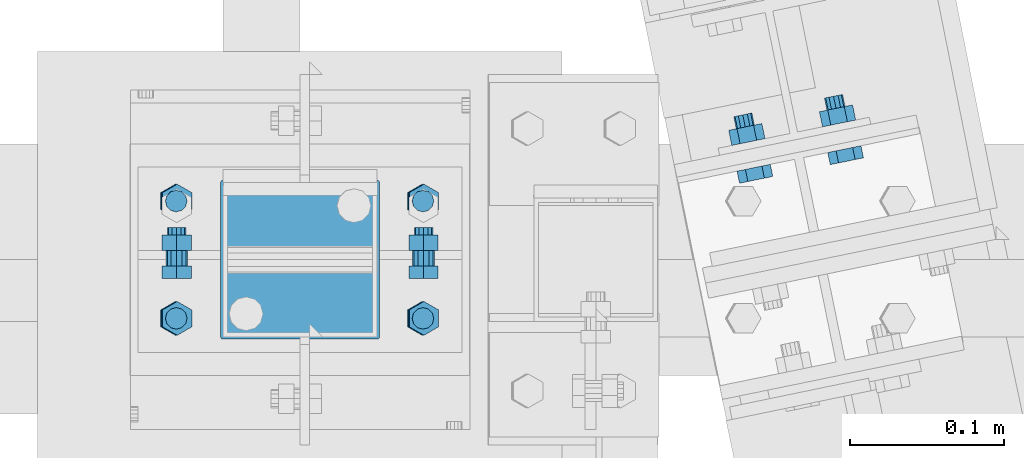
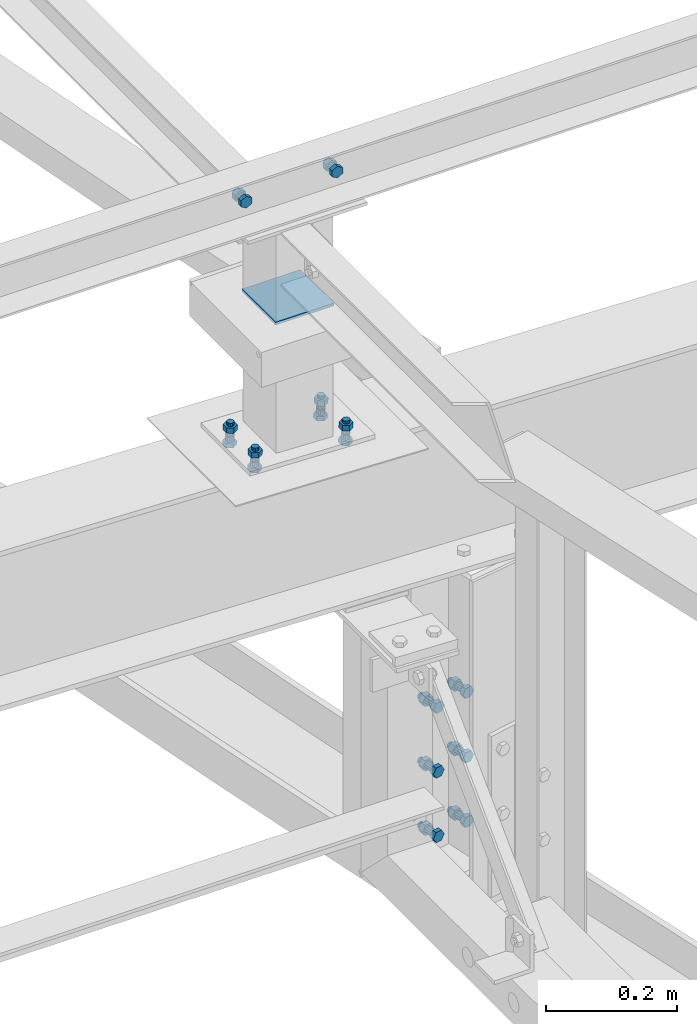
# One storey, part 66 of 3134: 5 mechanical fasteners, 4 elements without a shape of their own.
"""IFC2X3 building model written with IfcOpenShell, lengths in millimetres."""

from ifc_helpers import new_model, si_unit, frame, origin_with_axes, place, context, subcontext, project, spatial, faceted_brep, source, transform, mapped, material, type_object, element, aggregate, save


model = new_model("IFC2X3")

# Units and contexts
model_context = context("Model", 3, precision=1e-05, world=origin_with_axes())
body_context = subcontext(model_context, "Body", "Model", "MODEL_VIEW")
ifc_project = project(units=[si_unit("LENGTHUNIT", "METRE", prefix="MILLI"), si_unit("AREAUNIT", "SQUARE_METRE"), si_unit("VOLUMEUNIT", "CUBIC_METRE"), si_unit("MASSUNIT", "GRAM", prefix="KILO"), si_unit("TIMEUNIT", "SECOND"), si_unit("PLANEANGLEUNIT", "RADIAN"), si_unit("SOLIDANGLEUNIT", "STERADIAN"), si_unit("THERMODYNAMICTEMPERATUREUNIT", "DEGREE_CELSIUS"), si_unit("LUMINOUSINTENSITYUNIT", "LUMEN")], contexts=[model_context])

# Site, building, storey
site_placement = place(None, origin_with_axes())
site = spatial("IfcSite", under=ifc_project, at=site_placement, CompositionType="ELEMENT")
building_placement = place(site_placement, origin_with_axes())
building = spatial("IfcBuilding", under=site, at=building_placement, Name="Undefined", CompositionType="ELEMENT")
storey_placement = place(building_placement, origin_with_axes())
storey = spatial("IfcBuildingStorey", under=building, at=storey_placement, Name="Undefined", CompositionType="ELEMENT", Elevation=0.0)

# Assembly, mechanical fastener
assembly_1_placement = place(storey_placement, origin_with_axes())
assembly_1 = element("IfcElementAssembly", 1, at=assembly_1_placement, inside=storey, Name="HEA160", AssemblyPlace="NOTDEFINED", PredefinedType="RIGID_FRAME")
ifc_material_1 = material(Name="8.8")
mechanical_fastener_type = type_object("IfcMechanicalFastenerType", Name="Bolt assembly")
shared_shape_1 = source(origin_with_axes(), body_context, "Body", "Brep", [
    faceted_brep([(10.9696551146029, -17.0000000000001, 0.0), (5.48482755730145, -17.0000000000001, 9.5), (-5.48482755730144, -17.0000000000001, 9.5), (-10.9696551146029, -17.0000000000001, 1.34339530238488e-15), (-5.48482755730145, -17.0000000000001, -9.5), (5.48482755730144, -17.0000000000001, -9.50000000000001), (5.48482755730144, -9.00000000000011, -9.50000000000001), (-5.48482755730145, -9.00000000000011, -9.5), (-10.9696551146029, -9.00000000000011, 1.34339530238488e-15), (-5.48482755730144, -9.00000000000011, 9.5), (5.48482755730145, -9.00000000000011, 9.5), (10.9696551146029, -9.00000000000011, 0.0), (6.0, -9.00000000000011, 0.0), (5.19615242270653, -9.00000000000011, 3.00000000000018), (2.99999999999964, -9.00000000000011, 5.19615242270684), (-6.21801588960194e-13, -9.00000000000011, 6.0), (-3.00000000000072, -9.00000000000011, 5.19615242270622), (-5.19615242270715, -9.00000000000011, 2.9999999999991), (-6.0, -9.00000000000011, -1.24360317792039e-12), (-5.19615242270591, -9.00000000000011, -3.00000000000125), (-2.99999999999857, -9.00000000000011, -5.19615242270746), (1.85874342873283e-12, -9.00000000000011, -6.0), (3.00000000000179, -9.00000000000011, -5.1961524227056), (5.19615242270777, -9.00000000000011, -2.99999999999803), (5.19615242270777, 26.0, -2.99999999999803), (3.00000000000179, 26.0, -5.1961524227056), (1.85874342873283e-12, 26.0, -6.0), (-2.99999999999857, 26.0, -5.19615242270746), (-5.19615242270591, 26.0, -3.00000000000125), (-6.0, 26.0, -1.24360317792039e-12), (-5.19615242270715, 26.0, 2.9999999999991), (-3.00000000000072, 26.0, 5.19615242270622), (-6.21801588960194e-13, 26.0, 6.0), (2.99999999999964, 26.0, 5.19615242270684), (5.19615242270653, 26.0, 3.00000000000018), (6.0, 26.0, 0.0), (10.9696551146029, 8.0, 0.0), (5.48482755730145, 8.0, 9.5), (-5.48482755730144, 8.0, 9.5), (-10.9696551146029, 8.0, 1.34339530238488e-15), (-5.48482755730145, 8.0, -9.5), (5.48482755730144, 8.0, -9.50000000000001), (5.48482755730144, 18.0, -9.50000000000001), (-5.48482755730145, 18.0, -9.5), (-10.9696551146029, 18.0, 1.34339530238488e-15), (-5.48482755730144, 18.0, 9.5), (5.48482755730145, 18.0, 9.5), (10.9696551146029, 18.0, 0.0)], [[[0, 1, 2, 3, 4, 5]], [[6, 7, 8, 9, 10, 11]], [[0, 11, 10, 1]], [[1, 10, 9, 2]], [[2, 9, 8, 3]], [[3, 8, 7, 4]], [[4, 7, 6, 5]], [[5, 6, 11, 0]], [[12, 13, 14, 15, 16, 17, 18, 19, 20, 21, 22, 23]], [[24, 25, 26, 27, 28, 29, 30, 31, 32, 33, 34, 35]], [[12, 35, 34, 13]], [[13, 34, 33, 14]], [[14, 33, 32, 15]], [[15, 32, 31, 16]], [[16, 31, 30, 17]], [[17, 30, 29, 18]], [[18, 29, 28, 19]], [[19, 28, 27, 20]], [[20, 27, 26, 21]], [[21, 26, 25, 22]], [[22, 25, 24, 23]], [[23, 24, 35, 12]], [[36, 37, 38, 39, 40, 41]], [[42, 43, 44, 45, 46, 47]], [[36, 47, 46, 37]], [[37, 46, 45, 38]], [[38, 45, 44, 39]], [[39, 44, 43, 40]], [[40, 43, 42, 41]], [[41, 42, 47, 36]]]),
    faceted_brep([(7.0, -0.1, 0.0), (6.06217782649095, -0.1, 3.50000000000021), (3.49999999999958, -0.1, 6.06217782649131), (-7.25435187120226e-13, -0.1, 7.0), (-3.50000000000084, -0.1, 6.06217782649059), (-6.06217782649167, -0.1, 3.49999999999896), (-7.0, -0.1, -1.45087037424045e-12), (-6.06217782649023, -0.1, -3.50000000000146), (-3.49999999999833, -0.1, -6.06217782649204), (2.1685340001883e-12, -0.1, -7.0), (3.50000000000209, -0.1, -6.06217782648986), (6.0621778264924, -0.1, -3.4999999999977), (6.0621778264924, 8.0000000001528, -3.4999999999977), (3.50000000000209, 8.0000000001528, -6.06217782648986), (2.1685340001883e-12, 8.0000000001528, -7.0), (-3.49999999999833, 8.0000000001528, -6.06217782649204), (-6.06217782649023, 8.0000000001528, -3.50000000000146), (-7.0, 8.0000000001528, -1.45087037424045e-12), (-6.06217782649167, 8.0000000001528, 3.49999999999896), (-3.50000000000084, 8.0000000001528, 6.06217782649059), (-7.25435187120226e-13, 8.0000000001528, 7.0), (3.49999999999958, 8.0000000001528, 6.06217782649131), (6.06217782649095, 8.0000000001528, 3.50000000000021), (7.0, 8.0000000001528, 0.0), (7.0, -8.90000000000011, 0.0), (6.06217782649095, -8.90000000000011, 3.50000000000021), (3.49999999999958, -8.90000000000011, 6.06217782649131), (-7.25435187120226e-13, -8.90000000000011, 7.0), (-3.50000000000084, -8.90000000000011, 6.06217782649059), (-6.06217782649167, -8.90000000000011, 3.49999999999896), (-7.0, -8.90000000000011, -1.45087037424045e-12), (-6.06217782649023, -8.90000000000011, -3.50000000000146), (-3.49999999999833, -8.90000000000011, -6.06217782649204), (2.1685340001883e-12, -8.90000000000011, -7.0), (3.50000000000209, -8.90000000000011, -6.06217782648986), (6.0621778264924, -8.90000000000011, -3.4999999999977), (6.0621778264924, 0.0999999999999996, -3.4999999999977), (3.50000000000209, 0.0999999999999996, -6.06217782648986), (2.1685340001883e-12, 0.0999999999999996, -7.0), (-3.49999999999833, 0.0999999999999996, -6.06217782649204), (-6.06217782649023, 0.0999999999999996, -3.50000000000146), (-7.0, 0.0999999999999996, -1.45087037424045e-12), (-6.06217782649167, 0.0999999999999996, 3.49999999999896), (-3.50000000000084, 0.0999999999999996, 6.06217782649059), (-7.25435187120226e-13, 0.0999999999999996, 7.0), (3.49999999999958, 0.0999999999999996, 6.06217782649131), (6.06217782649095, 0.0999999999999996, 3.50000000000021), (7.0, 0.0999999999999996, 0.0)], [[[0, 1, 2, 3, 4, 5, 6, 7, 8, 9, 10, 11]], [[12, 13, 14, 15, 16, 17, 18, 19, 20, 21, 22, 23]], [[0, 23, 22, 1]], [[1, 22, 21, 2]], [[2, 21, 20, 3]], [[3, 20, 19, 4]], [[4, 19, 18, 5]], [[5, 18, 17, 6]], [[6, 17, 16, 7]], [[7, 16, 15, 8]], [[8, 15, 14, 9]], [[9, 14, 13, 10]], [[10, 13, 12, 11]], [[11, 12, 23, 0]], [[24, 25, 26, 27, 28, 29, 30, 31, 32, 33, 34, 35]], [[36, 37, 38, 39, 40, 41, 42, 43, 44, 45, 46, 47]], [[24, 47, 46, 25]], [[25, 46, 45, 26]], [[26, 45, 44, 27]], [[27, 44, 43, 28]], [[28, 43, 42, 29]], [[29, 42, 41, 30]], [[30, 41, 40, 31]], [[31, 40, 39, 32]], [[32, 39, 38, 33]], [[33, 38, 37, 34]], [[34, 37, 36, 35]], [[35, 36, 47, 24]]]),
])
mechanical_fastener_1_placement = place(assembly_1_placement, frame((3335.46373980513, 24580.9281044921, 3170.0), z_axis=(0.0, 0.0, 1.0), x_axis=(0.979632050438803, 0.200801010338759, 0.0)))
mechanical_fastener_1 = element("IfcMechanicalFastener", 2, at=mechanical_fastener_1_placement, type_object=mechanical_fastener_type, material=ifc_material_1, Name="Bolt assembly", NominalDiameter=12.0, NominalLength=35.0, context=body_context, shape_type="MappedRepresentation", body=[
    mapped(shared_shape_1, transform((0.0, 0.0, -120.0))),
    mapped(shared_shape_1, transform((60.0000000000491, 0.0, -120.0))),
    mapped(shared_shape_1, transform((0.0, 0.0, 0.0))),
    mapped(shared_shape_1, transform((59.9999999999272, 0.0, 5.40239852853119e-10))),
    mapped(shared_shape_1, transform((0.0, 0.0, 120.0))),
    mapped(shared_shape_1, transform((60.0000000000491, 0.0, 120.0))),
])
aggregate(assembly_1, [mechanical_fastener_1])

assembly_2_placement = place(storey_placement, origin_with_axes())
assembly_2 = element("IfcElementAssembly", 3, at=assembly_2_placement, inside=storey, AssemblyPlace="NOTDEFINED", PredefinedType="RIGID_FRAME")
shared_shape_2 = source(origin_with_axes(), body_context, "Body", "Brep", [
    faceted_brep([(10.9696551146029, -4.1972538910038, 0.0), (5.48482755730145, -4.1972538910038, 9.5), (-5.48482755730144, -4.1972538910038, 9.5), (-10.9696551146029, -4.1972538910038, 1.34339530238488e-15), (-5.48482755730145, -4.1972538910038, -9.5), (5.48482755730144, -4.1972538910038, -9.50000000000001), (5.48482755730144, 3.8027461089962, -9.50000000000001), (-5.48482755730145, 3.8027461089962, -9.5), (-10.9696551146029, 3.8027461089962, 1.34339530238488e-15), (-5.48482755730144, 3.8027461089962, 9.5), (5.48482755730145, 3.8027461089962, 9.5), (10.9696551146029, 3.8027461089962, 0.0), (6.0, 3.8027461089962, 0.0), (5.19615242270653, 3.8027461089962, 3.00000000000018), (2.99999999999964, 3.8027461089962, 5.19615242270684), (-6.21801588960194e-13, 3.8027461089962, 6.0), (-3.00000000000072, 3.8027461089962, 5.19615242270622), (-5.19615242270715, 3.8027461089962, 2.9999999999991), (-6.0, 3.8027461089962, -1.24360317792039e-12), (-5.19615242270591, 3.8027461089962, -3.00000000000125), (-2.99999999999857, 3.8027461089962, -5.19615242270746), (1.85874342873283e-12, 3.8027461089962, -6.0), (3.00000000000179, 3.8027461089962, -5.1961524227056), (5.19615242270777, 3.8027461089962, -2.99999999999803), (5.19615242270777, 38.8027461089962, -2.99999999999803), (3.00000000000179, 38.8027461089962, -5.1961524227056), (1.85874342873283e-12, 38.8027461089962, -6.0), (-2.99999999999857, 38.8027461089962, -5.19615242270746), (-5.19615242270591, 38.8027461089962, -3.00000000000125), (-6.0, 38.8027461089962, -1.24360317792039e-12), (-5.19615242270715, 38.8027461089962, 2.9999999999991), (-3.00000000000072, 38.8027461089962, 5.19615242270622), (-6.21801588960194e-13, 38.8027461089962, 6.0), (2.99999999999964, 38.8027461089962, 5.19615242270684), (5.19615242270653, 38.8027461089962, 3.00000000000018), (6.0, 38.8027461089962, 0.0), (10.9696551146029, 23.0139082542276, 0.0), (5.48482755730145, 23.0139082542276, 9.5), (-5.48482755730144, 23.0139082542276, 9.5), (-10.9696551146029, 23.0139082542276, 1.34339530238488e-15), (-5.48482755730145, 23.0139082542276, -9.5), (5.48482755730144, 23.0139082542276, -9.50000000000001), (5.48482755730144, 33.0139082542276, -9.50000000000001), (-5.48482755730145, 33.0139082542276, -9.5), (-10.9696551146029, 33.0139082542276, 1.34339530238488e-15), (-5.48482755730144, 33.0139082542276, 9.5), (5.48482755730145, 33.0139082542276, 9.5), (10.9696551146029, 33.0139082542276, 0.0)], [[[0, 1, 2, 3, 4, 5]], [[6, 7, 8, 9, 10, 11]], [[0, 11, 10, 1]], [[1, 10, 9, 2]], [[2, 9, 8, 3]], [[3, 8, 7, 4]], [[4, 7, 6, 5]], [[5, 6, 11, 0]], [[12, 13, 14, 15, 16, 17, 18, 19, 20, 21, 22, 23]], [[24, 25, 26, 27, 28, 29, 30, 31, 32, 33, 34, 35]], [[12, 35, 34, 13]], [[13, 34, 33, 14]], [[14, 33, 32, 15]], [[15, 32, 31, 16]], [[16, 31, 30, 17]], [[17, 30, 29, 18]], [[18, 29, 28, 19]], [[19, 28, 27, 20]], [[20, 27, 26, 21]], [[21, 26, 25, 22]], [[22, 25, 24, 23]], [[23, 24, 35, 12]], [[36, 37, 38, 39, 40, 41]], [[42, 43, 44, 45, 46, 47]], [[36, 47, 46, 37]], [[37, 46, 45, 38]], [[38, 45, 44, 39]], [[39, 44, 43, 40]], [[40, 43, 42, 41]], [[41, 42, 47, 36]]]),
    faceted_brep([(7.0, 3.9027461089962, 0.0), (6.06217782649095, 3.9027461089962, 3.50000000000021), (3.49999999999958, 3.9027461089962, 6.06217782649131), (-7.25435187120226e-13, 3.9027461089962, 7.0), (-3.50000000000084, 3.9027461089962, 6.06217782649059), (-6.06217782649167, 3.9027461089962, 3.49999999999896), (-7.0, 3.9027461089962, -1.45087037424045e-12), (-6.06217782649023, 3.9027461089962, -3.50000000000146), (-3.49999999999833, 3.9027461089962, -6.06217782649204), (2.1685340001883e-12, 3.9027461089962, -7.0), (3.50000000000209, 3.9027461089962, -6.06217782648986), (6.0621778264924, 3.9027461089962, -3.4999999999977), (6.0621778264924, 13.1027459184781, -3.4999999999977), (3.50000000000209, 13.1027459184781, -6.06217782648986), (2.1685340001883e-12, 13.1027459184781, -7.0), (-3.49999999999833, 13.1027459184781, -6.06217782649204), (-6.06217782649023, 13.1027459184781, -3.50000000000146), (-7.0, 13.1027459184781, -1.45087037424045e-12), (-6.06217782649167, 13.1027459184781, 3.49999999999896), (-3.50000000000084, 13.1027459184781, 6.06217782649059), (-7.25435187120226e-13, 13.1027459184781, 7.0), (3.49999999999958, 13.1027459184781, 6.06217782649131), (6.06217782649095, 13.1027459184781, 3.50000000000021), (7.0, 13.1027459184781, 0.0), (7.0, 14.9139082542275, 0.0), (6.06217782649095, 14.9139082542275, 3.50000000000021), (3.49999999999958, 14.9139082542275, 6.06217782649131), (-7.25435187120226e-13, 14.9139082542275, 7.0), (-3.50000000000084, 14.9139082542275, 6.06217782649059), (-6.06217782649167, 14.9139082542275, 3.49999999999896), (-7.0, 14.9139082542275, -1.45087037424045e-12), (-6.06217782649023, 14.9139082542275, -3.50000000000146), (-3.49999999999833, 14.9139082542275, -6.06217782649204), (2.1685340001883e-12, 14.9139082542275, -7.0), (3.50000000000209, 14.9139082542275, -6.06217782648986), (6.0621778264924, 14.9139082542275, -3.4999999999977), (6.0621778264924, 23.0139082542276, -3.4999999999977), (3.50000000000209, 23.0139082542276, -6.06217782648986), (2.1685340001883e-12, 23.0139082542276, -7.0), (-3.49999999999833, 23.0139082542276, -6.06217782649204), (-6.06217782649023, 23.0139082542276, -3.50000000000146), (-7.0, 23.0139082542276, -1.45087037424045e-12), (-6.06217782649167, 23.0139082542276, 3.49999999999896), (-3.50000000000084, 23.0139082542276, 6.06217782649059), (-7.25435187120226e-13, 23.0139082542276, 7.0), (3.49999999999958, 23.0139082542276, 6.06217782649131), (6.06217782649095, 23.0139082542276, 3.50000000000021), (7.0, 23.0139082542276, 0.0)], [[[0, 1, 2, 3, 4, 5, 6, 7, 8, 9, 10, 11]], [[12, 13, 14, 15, 16, 17, 18, 19, 20, 21, 22, 23]], [[0, 23, 22, 1]], [[1, 22, 21, 2]], [[2, 21, 20, 3]], [[3, 20, 19, 4]], [[4, 19, 18, 5]], [[5, 18, 17, 6]], [[6, 17, 16, 7]], [[7, 16, 15, 8]], [[8, 15, 14, 9]], [[9, 14, 13, 10]], [[10, 13, 12, 11]], [[11, 12, 23, 0]], [[24, 25, 26, 27, 28, 29, 30, 31, 32, 33, 34, 35]], [[36, 37, 38, 39, 40, 41, 42, 43, 44, 45, 46, 47]], [[24, 47, 46, 25]], [[25, 46, 45, 26]], [[26, 45, 44, 27]], [[27, 44, 43, 28]], [[28, 43, 42, 29]], [[29, 42, 41, 30]], [[30, 41, 40, 31]], [[31, 40, 39, 32]], [[32, 39, 38, 33]], [[33, 38, 37, 34]], [[34, 37, 36, 35]], [[35, 36, 47, 24]]]),
])
mechanical_fastener_2_placement = place(assembly_2_placement, frame((3042.5231765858, 24550.4999999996, 3920.50000668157), z_axis=(-0.999387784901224, 0.0, 0.0349865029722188), x_axis=(0.0, -1.0, 0.0)))
mechanical_fastener_2 = element("IfcMechanicalFastener", 4, at=mechanical_fastener_2_placement, type_object=mechanical_fastener_type, material=ifc_material_1, Name="Bolt assembly", NominalDiameter=12.0, NominalLength=35.0, context=body_context, shape_type="MappedRepresentation", body=[
    mapped(shared_shape_2, transform((0.0, -5.32963895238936e-10, -79.9999999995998))),
    mapped(shared_shape_2, transform((76.0, -5.32963895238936e-10, -79.9999999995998))),
    mapped(shared_shape_2, transform((0.0, 5.3114490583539e-10, 79.9999999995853))),
    mapped(shared_shape_2, transform((76.0, 5.3114490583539e-10, 79.9999999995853))),
])

assembly_3_placement = place(storey_placement, origin_with_axes())
assembly_3 = element("IfcElementAssembly", 5, at=assembly_3_placement, inside=storey, AssemblyPlace="NOTDEFINED", PredefinedType="RIGID_FRAME")
shared_shape_3 = source(origin_with_axes(), body_context, "Body", "Brep", [
    faceted_brep([(7.0, 13.0000253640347, 0.0), (6.06217782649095, 13.0000253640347, 3.50000000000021), (3.49999999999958, 13.0000253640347, 6.06217782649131), (-7.25435187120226e-13, 13.0000253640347, 7.0), (-3.50000000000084, 13.0000253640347, 6.06217782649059), (-6.06217782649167, 13.0000253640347, 3.49999999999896), (-7.0, 13.0000253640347, -1.45087037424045e-12), (-6.06217782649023, 13.0000253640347, -3.50000000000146), (-3.49999999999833, 13.0000253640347, -6.06217782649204), (2.1685340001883e-12, 13.0000253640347, -7.0), (3.50000000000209, 13.0000253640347, -6.06217782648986), (6.0621778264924, 13.0000253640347, -3.4999999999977), (6.0621778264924, 15.0999999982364, -3.4999999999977), (3.50000000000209, 15.0999999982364, -6.06217782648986), (2.1685340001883e-12, 15.0999999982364, -7.0), (-3.49999999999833, 15.0999999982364, -6.06217782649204), (-6.06217782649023, 15.0999999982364, -3.50000000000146), (-7.0, 15.0999999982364, -1.45087037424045e-12), (-6.06217782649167, 15.0999999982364, 3.49999999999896), (-3.50000000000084, 15.0999999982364, 6.06217782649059), (-7.25435187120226e-13, 15.0999999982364, 7.0), (3.49999999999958, 15.0999999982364, 6.06217782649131), (6.06217782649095, 15.0999999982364, 3.50000000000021), (7.0, 15.0999999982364, 0.0)], [[[0, 1, 2, 3, 4, 5, 6, 7, 8, 9, 10, 11]], [[12, 13, 14, 15, 16, 17, 18, 19, 20, 21, 22, 23]], [[0, 23, 22, 1]], [[1, 22, 21, 2]], [[2, 21, 20, 3]], [[3, 20, 19, 4]], [[4, 19, 18, 5]], [[5, 18, 17, 6]], [[6, 17, 16, 7]], [[7, 16, 15, 8]], [[8, 15, 14, 9]], [[9, 14, 13, 10]], [[10, 13, 12, 11]], [[11, 12, 23, 0]]]),
])
mechanical_fastener_3_placement = place(assembly_3_placement, frame((3042.5231765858, 24550.4999999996, 3920.50000668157), z_axis=(-0.999387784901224, 0.0, 0.0349865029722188), x_axis=(0.0, -1.0, 0.0)))
mechanical_fastener_3 = element("IfcMechanicalFastener", 6, at=mechanical_fastener_3_placement, type_object=mechanical_fastener_type, material=ifc_material_1, Name="Bolt assembly", NominalDiameter=12.0, NominalLength=2.0, context=body_context, shape_type="MappedRepresentation", body=[
    mapped(shared_shape_3, transform((0.0, -5.32963895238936e-10, -79.9999999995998))),
    mapped(shared_shape_3, transform((76.0, -5.32963895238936e-10, -79.9999999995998))),
    mapped(shared_shape_3, transform((0.0, 5.3114490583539e-10, 79.9999999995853))),
    mapped(shared_shape_3, transform((76.0, 5.3114490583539e-10, 79.9999999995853))),
])
aggregate(assembly_3, [mechanical_fastener_3])

# Mechanical fastener
ifc_material_2 = material(Name="6.8")
shared_shape_4 = source(origin_with_axes(), body_context, "Body", "Brep", [
    faceted_brep([(51.5, 1.36424205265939e-12, 50.0), (51.3858192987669, 1.36424205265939e-12, 50.5740251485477), (51.0606601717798, 1.36424205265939e-12, 51.0606601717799), (50.5740251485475, 1.36424205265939e-12, 51.385819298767), (-50.0000000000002, 1.36424205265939e-12, 51.5), (-50.7500000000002, 1.36424205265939e-12, 51.2990381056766), (-51.2990381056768, 1.36424205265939e-12, 50.7499999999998), (-51.5, 1.36424205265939e-12, 49.9999999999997), (-51.5, 1.36424205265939e-12, -50.0000000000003), (-51.2990381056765, 1.36424205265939e-12, -50.7500000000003), (-50.7499999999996, 1.36424205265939e-12, -51.2990381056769), (-49.9999999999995, 1.36424205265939e-12, -51.5), (50.0000000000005, 1.36424205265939e-12, -51.5), (50.7500000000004, 1.36424205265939e-12, -51.2990381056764), (51.2990381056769, 1.36424205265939e-12, -50.7499999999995), (51.5, 1.36424205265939e-12, -49.9999999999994), (51.5, 5.10000000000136, -49.9999999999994), (51.2990381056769, 5.10000000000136, -50.7499999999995), (50.7500000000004, 5.10000000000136, -51.2990381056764), (50.0000000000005, 5.10000000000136, -51.5), (-49.9999999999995, 5.10000000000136, -51.5), (-50.7499999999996, 5.10000000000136, -51.2990381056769), (-51.2990381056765, 5.10000000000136, -50.7500000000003), (-51.5, 5.10000000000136, -50.0000000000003), (-51.5, 5.10000000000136, 49.9999999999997), (-51.2990381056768, 5.10000000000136, 50.7499999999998), (-50.7500000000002, 5.10000000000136, 51.2990381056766), (-50.0000000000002, 5.10000000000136, 51.5), (50.5740251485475, 5.10000000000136, 51.385819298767), (51.0606601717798, 5.10000000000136, 51.0606601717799), (51.3858192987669, 5.10000000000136, 50.5740251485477), (51.5, 5.10000000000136, 50.0)], [[[0, 1, 2, 3, 4, 5, 6, 7, 8, 9, 10, 11, 12, 13, 14, 15]], [[16, 17, 18, 19, 20, 21, 22, 23, 24, 25, 26, 27, 28, 29, 30, 31]], [[0, 31, 30, 1]], [[1, 30, 29, 2]], [[2, 29, 28, 3]], [[3, 28, 27, 4]], [[4, 27, 26, 5]], [[5, 26, 25, 6]], [[6, 25, 24, 7]], [[7, 24, 23, 8]], [[8, 23, 22, 9]], [[9, 22, 21, 10]], [[10, 21, 20, 11]], [[11, 20, 19, 12]], [[12, 19, 18, 13]], [[13, 18, 17, 14]], [[14, 17, 16, 15]], [[15, 16, 31, 0]]]),
])
mechanical_fastener_4_placement = place(assembly_2_placement, frame((3043.33, 24512.5, 4190.29), z_axis=(0.0, -1.0, 0.0), x_axis=(-1.0, 0.0, 0.0)))
mechanical_fastener_4 = element("IfcMechanicalFastener", 7, at=mechanical_fastener_4_placement, type_object=mechanical_fastener_type, material=ifc_material_2, Name="Bolt assembly", NominalDiameter=10.0, NominalLength=5.0, context=body_context, shape_type="MappedRepresentation", body=[
    mapped(shared_shape_4, transform((0.0, 0.0, 0.0))),
])

aggregate(assembly_2, [mechanical_fastener_2, mechanical_fastener_4])

# Assembly, mechanical fastener
assembly_4_placement = place(storey_placement, origin_with_axes())
assembly_4 = element("IfcElementAssembly", 8, at=assembly_4_placement, inside=storey, AssemblyPlace="NOTDEFINED", PredefinedType="RIGID_FRAME")
shared_shape_5 = source(origin_with_axes(), body_context, "Body", "Brep", [
    faceted_brep([(10.9696551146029, -12.0003169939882, 0.0), (5.48482755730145, -12.0003169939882, 9.5), (-5.48482755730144, -12.0003169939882, 9.5), (-10.9696551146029, -12.0003169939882, 1.34339530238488e-15), (-5.48482755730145, -12.0003169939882, -9.5), (5.48482755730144, -12.0003169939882, -9.50000000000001), (5.48482755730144, -4.00031699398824, -9.50000000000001), (-5.48482755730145, -4.00031699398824, -9.5), (-10.9696551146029, -4.00031699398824, 1.34339530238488e-15), (-5.48482755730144, -4.00031699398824, 9.5), (5.48482755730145, -4.00031699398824, 9.5), (10.9696551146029, -4.00031699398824, 0.0), (6.0, -4.00031699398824, 0.0), (5.19615242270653, -4.00031699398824, 3.00000000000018), (2.99999999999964, -4.00031699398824, 5.19615242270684), (-6.21801588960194e-13, -4.00031699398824, 6.0), (-3.00000000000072, -4.00031699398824, 5.19615242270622), (-5.19615242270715, -4.00031699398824, 2.9999999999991), (-6.0, -4.00031699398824, -1.24360317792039e-12), (-5.19615242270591, -4.00031699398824, -3.00000000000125), (-2.99999999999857, -4.00031699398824, -5.19615242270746), (1.85874342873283e-12, -4.00031699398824, -6.0), (3.00000000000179, -4.00031699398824, -5.1961524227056), (5.19615242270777, -4.00031699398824, -2.99999999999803), (5.19615242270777, 20.9997148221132, -2.99999999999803), (3.00000000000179, 20.9997148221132, -5.1961524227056), (1.85874342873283e-12, 20.9997148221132, -6.0), (-2.99999999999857, 20.9997148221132, -5.19615242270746), (-5.19615242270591, 20.9997148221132, -3.00000000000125), (-6.0, 20.9997148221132, -1.24360317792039e-12), (-5.19615242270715, 20.9997148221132, 2.9999999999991), (-3.00000000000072, 20.9997148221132, 5.19615242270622), (-6.21801588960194e-13, 20.9997148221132, 6.0), (2.99999999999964, 20.9997148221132, 5.19615242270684), (5.19615242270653, 20.9997148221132, 3.00000000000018), (6.0, 20.9997148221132, 0.0), (10.9696551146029, 6.00000000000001, 0.0), (5.48482755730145, 6.00000000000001, 9.5), (-5.48482755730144, 6.00000000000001, 9.5), (-10.9696551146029, 6.00000000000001, 1.34339530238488e-15), (-5.48482755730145, 6.00000000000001, -9.5), (5.48482755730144, 6.00000000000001, -9.50000000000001), (5.48482755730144, 16.0, -9.50000000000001), (-5.48482755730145, 16.0, -9.5), (-10.9696551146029, 16.0, 1.34339530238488e-15), (-5.48482755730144, 16.0, 9.5), (5.48482755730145, 16.0, 9.5), (10.9696551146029, 16.0, 0.0)], [[[0, 1, 2, 3, 4, 5]], [[6, 7, 8, 9, 10, 11]], [[0, 11, 10, 1]], [[1, 10, 9, 2]], [[2, 9, 8, 3]], [[3, 8, 7, 4]], [[4, 7, 6, 5]], [[5, 6, 11, 0]], [[12, 13, 14, 15, 16, 17, 18, 19, 20, 21, 22, 23]], [[24, 25, 26, 27, 28, 29, 30, 31, 32, 33, 34, 35]], [[12, 35, 34, 13]], [[13, 34, 33, 14]], [[14, 33, 32, 15]], [[15, 32, 31, 16]], [[16, 31, 30, 17]], [[17, 30, 29, 18]], [[18, 29, 28, 19]], [[19, 28, 27, 20]], [[20, 27, 26, 21]], [[21, 26, 25, 22]], [[22, 25, 24, 23]], [[23, 24, 35, 12]], [[36, 37, 38, 39, 40, 41]], [[42, 43, 44, 45, 46, 47]], [[36, 47, 46, 37]], [[37, 46, 45, 38]], [[38, 45, 44, 39]], [[39, 44, 43, 40]], [[40, 43, 42, 41]], [[41, 42, 47, 36]]]),
    faceted_brep([(7.0, -3.90031233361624, 0.0), (6.06217782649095, -3.90027629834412, 3.50000000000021), (3.49999999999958, -3.90031233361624, 6.06217782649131), (-7.25435187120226e-13, -3.90027629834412, 7.0), (-3.50000000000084, -3.90027629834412, 6.06217782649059), (-6.06217782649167, -3.90027629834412, 3.49999999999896), (-7.0, -3.90031233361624, -1.45087037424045e-12), (-6.06217782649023, -3.90027629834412, -3.50000000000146), (-3.49999999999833, -3.90027629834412, -6.06217782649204), (2.1685340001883e-12, -3.90027629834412, -7.0), (3.50000000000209, -3.90027629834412, -6.06217782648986), (6.0621778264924, -3.90031233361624, -3.4999999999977), (6.0621778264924, 0.0996830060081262, -3.4999999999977), (3.50000000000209, 0.0996830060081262, -6.06217782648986), (2.1685340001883e-12, 0.0996830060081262, -7.0), (-3.49999999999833, 0.0996830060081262, -6.06217782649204), (-6.06217782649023, 0.0996830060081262, -3.50000000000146), (-7.0, 0.0996830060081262, -1.45087037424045e-12), (-6.06217782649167, 0.0997148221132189, 3.49999999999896), (-3.50000000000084, 0.0997148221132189, 6.06217782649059), (-7.25435187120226e-13, 0.0996830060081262, 7.0), (3.49999999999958, 0.0996830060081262, 6.06217782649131), (6.06217782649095, 0.0996830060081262, 3.50000000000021), (7.0, 0.0997148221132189, 0.0), (7.0, -0.1, 0.0), (6.06217782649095, -0.1, 3.50000000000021), (3.49999999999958, -0.1, 6.06217782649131), (-7.25435187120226e-13, -0.1, 7.0), (-3.50000000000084, -0.1, 6.06217782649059), (-6.06217782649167, -0.1, 3.49999999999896), (-7.0, -0.1, -1.45087037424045e-12), (-6.06217782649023, -0.1, -3.50000000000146), (-3.49999999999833, -0.1, -6.06217782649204), (2.1685340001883e-12, -0.1, -7.0), (3.50000000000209, -0.1, -6.06217782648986), (6.0621778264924, -0.1, -3.4999999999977), (6.0621778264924, 6.00000000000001, -3.4999999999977), (3.50000000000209, 6.00000000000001, -6.06217782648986), (2.1685340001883e-12, 6.00000000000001, -7.0), (-3.49999999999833, 6.00000000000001, -6.06217782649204), (-6.06217782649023, 6.00000000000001, -3.50000000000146), (-7.0, 6.00000000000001, -1.45087037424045e-12), (-6.06217782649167, 6.00000000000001, 3.49999999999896), (-3.50000000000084, 6.00000000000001, 6.06217782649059), (-7.25435187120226e-13, 6.00000000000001, 7.0), (3.49999999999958, 6.00000000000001, 6.06217782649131), (6.06217782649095, 6.00000000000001, 3.50000000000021), (7.0, 6.00000000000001, 0.0)], [[[0, 1, 2, 3, 4, 5, 6, 7, 8, 9, 10, 11]], [[12, 13, 14, 15, 16, 17, 18, 19, 20, 21, 22, 23]], [[0, 23, 22, 1]], [[1, 22, 21, 2]], [[2, 21, 20, 3]], [[3, 20, 19, 4]], [[4, 19, 18, 5]], [[5, 18, 17, 6]], [[6, 17, 16, 7]], [[7, 16, 15, 8]], [[8, 15, 14, 9]], [[9, 14, 13, 10]], [[10, 13, 12, 11]], [[11, 12, 23, 0]], [[24, 25, 26, 27, 28, 29, 30, 31, 32, 33, 34, 35]], [[36, 37, 38, 39, 40, 41, 42, 43, 44, 45, 46, 47]], [[24, 47, 46, 25]], [[25, 46, 45, 26]], [[26, 45, 44, 27]], [[27, 44, 43, 28]], [[28, 43, 42, 29]], [[29, 42, 41, 30]], [[30, 41, 40, 31]], [[31, 40, 39, 32]], [[32, 39, 38, 33]], [[33, 38, 37, 34]], [[34, 37, 36, 35]], [[35, 36, 47, 24]]]),
])
mechanical_fastener_5_placement = place(assembly_4_placement, frame((3043.33, 24512.5, 4400.0), z_axis=(1.0, 0.0, 0.0), x_axis=(0.0, 0.0, -1.0)))
mechanical_fastener_5 = element("IfcMechanicalFastener", 9, at=mechanical_fastener_5_placement, type_object=mechanical_fastener_type, material=ifc_material_1, Name="Bolt assembly", NominalDiameter=12.0, NominalLength=25.0, context=body_context, shape_type="MappedRepresentation", body=[
    mapped(shared_shape_5, transform((0.0, -5.32963895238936e-10, -79.9999999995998))),
    mapped(shared_shape_5, transform((0.0, 5.3114490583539e-10, 79.9999999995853))),
])
aggregate(assembly_4, [mechanical_fastener_5])

save(model, "model.ifc")
